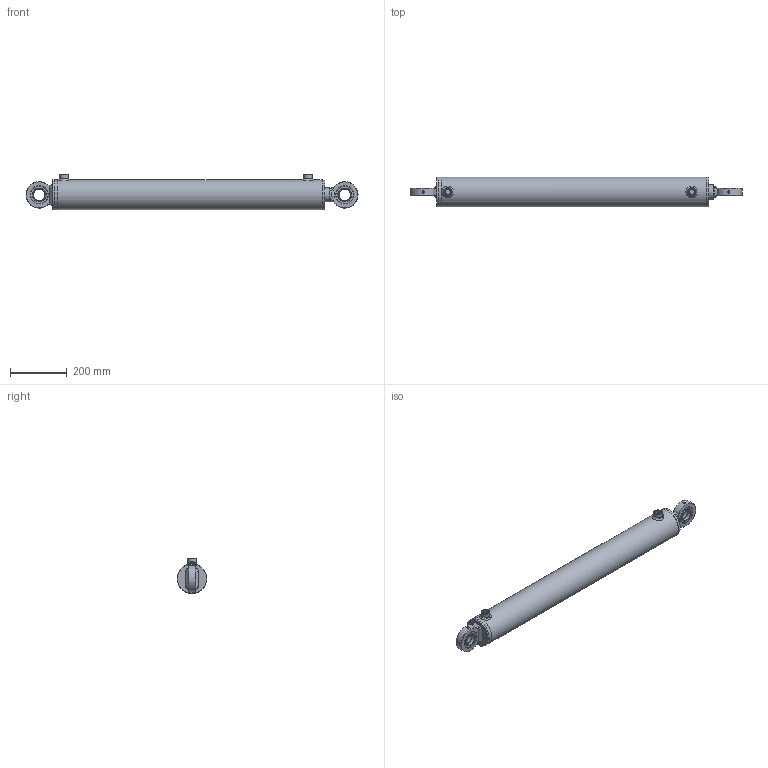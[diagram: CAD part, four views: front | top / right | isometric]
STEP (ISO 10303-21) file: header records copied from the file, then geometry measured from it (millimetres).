
FILE_DESCRIPTION( ( 'Unknown' ), '1' );
FILE_NAME( 'E:/LIBRERIA_3d/CILINDRI/HMC/HMC090500800.stp', 'Unknown', ( 'Unknown' ), ( 'Unknown' ), 'PSStep 17.0.49', 'Unknown', ' ' );
FILE_SCHEMA( ( 'AUTOMOTIVE_DESIGN { 1 0 10303 214 1 1 1 1 }' ) );
Length unit declared in the file: millimetre
Products named in the file (27): CT00090033; STL0901050800-oa6; Saldatura d'angolo 1-oa4; MAT_PRIMA_TUBO_FT10509000-oa5; CBSC220800; CG10509050; HM0090500800; CF00090105; CBS0800000; APG0800000; CDA0003320; Saldatura con preparazione 1-oa2; Saldatura d'angolo 1-oa3; SBL0500900800; CAGEG09406240; CAGE094062; CGE0400000; Assem1; Saldatura d'angolo 1-oa0; Saldatura d'angolo 2-oa1
Assembly tree (20 placements, depth 4):
  Saldatura d'angolo 1-oa4
  Saldatura d'angolo 1-oa4
  Saldatura d'angolo 1-oa3
  Saldatura d'angolo 1-oa3
  Assem1
    CAGEG09406240  x2
      CAGE094062
      CGE0400000
    HM0090500800
      CF00090105
      CBS0800000
      APG0800000  x2
      CDA0003320
      Saldatura con preparazione 1-oa2
      Saldatura con preparazione 1-oa2
      SBL0500900800
      CG10509050
        CG10509050
      CT00090033
        CT00090033
      STL0901050800-oa6
        MAT_PRIMA_TUBO_FT10509000-oa5
        CBSC220800
Bounding box: 1174 x 105 x 125 mm (x, y, z)
Volume: 4994644.6 mm3; surface area: 974540.3 mm2
Topology: 24 solids, 24 shells, 414 faces, 916 edges, 499 vertices
Faces by surface type: bspline 164, plane 84, cylinder 78, cone 46, torus 36, sphere 6
Full cylindrical faces by diameter (mm): 2.5 x4, 4.25 x1, 5 x2, 8 x2, 12 x1, 18.631 x2, 19.5 x2, 20.95 x2, 26 x2, 30 x2, 32.4 x1, 33 x5, 39.2 x1, 40 x4, 50 x6, 53 x3, 58.6 x1, 60 x1, 62 x6, 70 x1, 81.5 x1, 84.15 x2, 88.31 x2, 89.9 x1, 90 x1, 90.3 x1, 90.5 x1, 90.6 x1, 91 x1, 92 x3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
Entity records: 18377 total; most frequent: CARTESIAN_POINT 9335, ORIENTED_EDGE 1132, DIRECTION 920, EDGE_LOOP 573, EDGE_CURVE 566, FACE_OUTER_BOUND 481, AXIS2_PLACEMENT_3D 445, VERTEX_POINT 392
